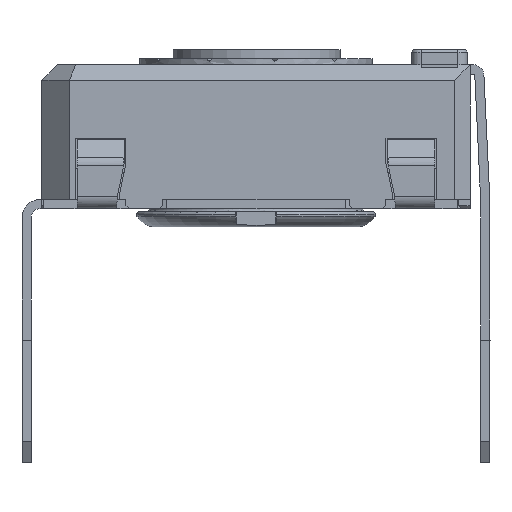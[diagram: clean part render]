
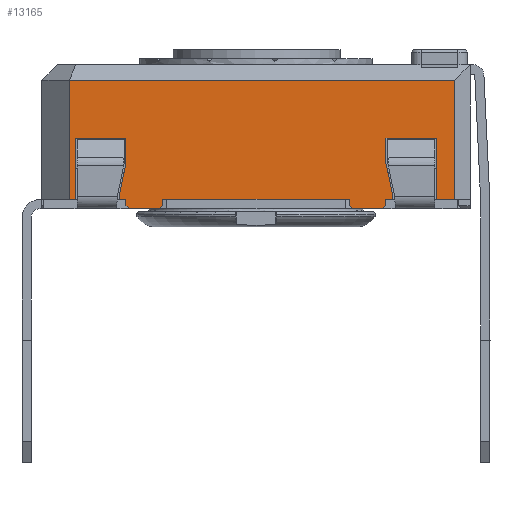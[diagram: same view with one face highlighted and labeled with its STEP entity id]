
A CAD part, left-side view. The second image highlights one B-rep face of the part: STEP entity #13165.
In plain terms, the highlighted planar face has unit normal (-1, 0, 0).
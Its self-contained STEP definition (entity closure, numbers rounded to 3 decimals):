
#1023=FACE_OUTER_BOUND('',#1709,.T.);
#1709=EDGE_LOOP('',(#10509,#10510,#10511,#10512,#10513,#10514,#10515,#10516,
#10517,#10518,#10519,#10520,#10521,#10522,#10523,#10524,#10525,#10526,#10527,
#10528,#10529,#10530,#10531,#10532,#10533,#10534,#10535,#10536));
#2725=LINE('',#20159,#4240);
#2731=LINE('',#20171,#4246);
#2734=LINE('',#20178,#4249);
#2739=LINE('',#20187,#4254);
#2759=LINE('',#20228,#4274);
#2773=LINE('',#20254,#4288);
#2777=LINE('',#20261,#4292);
#2792=LINE('',#20290,#4307);
#2795=LINE('',#20296,#4310);
#2800=LINE('',#20306,#4315);
#2803=LINE('',#20312,#4318);
#2806=LINE('',#20318,#4321);
#2824=LINE('',#20353,#4339);
#2836=LINE('',#20375,#4351);
#2839=LINE('',#20381,#4354);
#2876=LINE('',#20515,#4391);
#2884=LINE('',#20529,#4399);
#2893=LINE('',#20547,#4408);
#2898=LINE('',#20557,#4413);
#2900=LINE('',#20560,#4415);
#3025=LINE('',#20871,#4540);
#3027=LINE('',#20876,#4542);
#3030=LINE('',#20880,#4545);
#3032=LINE('',#20884,#4547);
#3035=LINE('',#20892,#4550);
#3036=LINE('',#20894,#4551);
#3037=LINE('',#20895,#4552);
#3038=LINE('',#20896,#4553);
#4240=VECTOR('',#16134,10.);
#4246=VECTOR('',#16142,10.);
#4249=VECTOR('',#16147,10.);
#4254=VECTOR('',#16154,10.);
#4274=VECTOR('',#16188,10.);
#4288=VECTOR('',#16202,10.);
#4292=VECTOR('',#16206,10.);
#4307=VECTOR('',#16233,10.);
#4310=VECTOR('',#16238,10.);
#4315=VECTOR('',#16245,10.);
#4318=VECTOR('',#16250,10.);
#4321=VECTOR('',#16255,10.);
#4339=VECTOR('',#16275,10.);
#4351=VECTOR('',#16289,10.);
#4354=VECTOR('',#16294,10.);
#4391=VECTOR('',#16375,10.);
#4399=VECTOR('',#16385,10.);
#4408=VECTOR('',#16396,10.);
#4413=VECTOR('',#16403,10.);
#4415=VECTOR('',#16407,10.);
#4540=VECTOR('',#16698,10.);
#4542=VECTOR('',#16702,10.);
#4545=VECTOR('',#16707,10.);
#4547=VECTOR('',#16713,10.);
#4550=VECTOR('',#16724,10.);
#4551=VECTOR('',#16725,10.);
#4552=VECTOR('',#16726,10.);
#4553=VECTOR('',#16727,10.);
#5658=VERTEX_POINT('',#20156);
#5659=VERTEX_POINT('',#20158);
#5663=VERTEX_POINT('',#20168);
#5665=VERTEX_POINT('',#20174);
#5667=VERTEX_POINT('',#20177);
#5670=VERTEX_POINT('',#20185);
#5695=VERTEX_POINT('',#20251);
#5696=VERTEX_POINT('',#20253);
#5698=VERTEX_POINT('',#20258);
#5699=VERTEX_POINT('',#20260);
#5706=VERTEX_POINT('',#20287);
#5708=VERTEX_POINT('',#20293);
#5712=VERTEX_POINT('',#20303);
#5714=VERTEX_POINT('',#20309);
#5717=VERTEX_POINT('',#20316);
#5733=VERTEX_POINT('',#20351);
#5742=VERTEX_POINT('',#20373);
#5744=VERTEX_POINT('',#20379);
#5771=VERTEX_POINT('',#20513);
#5776=VERTEX_POINT('',#20527);
#5783=VERTEX_POINT('',#20544);
#5787=VERTEX_POINT('',#20554);
#5861=VERTEX_POINT('',#20868);
#5862=VERTEX_POINT('',#20870);
#5863=VERTEX_POINT('',#20874);
#5864=VERTEX_POINT('',#20875);
#5865=VERTEX_POINT('',#20891);
#5866=VERTEX_POINT('',#20893);
#7194=EDGE_CURVE('',#5659,#5658,#2725,.T.);
#7200=EDGE_CURVE('',#5658,#5663,#2731,.T.);
#7203=EDGE_CURVE('',#5667,#5665,#2734,.T.);
#7208=EDGE_CURVE('',#5670,#5665,#2739,.T.);
#7228=EDGE_CURVE('',#5663,#5667,#2759,.T.);
#7242=EDGE_CURVE('',#5696,#5695,#2773,.T.);
#7246=EDGE_CURVE('',#5699,#5698,#2777,.T.);
#7262=EDGE_CURVE('',#5695,#5706,#2792,.T.);
#7265=EDGE_CURVE('',#5706,#5708,#2795,.T.);
#7270=EDGE_CURVE('',#5708,#5712,#2800,.T.);
#7273=EDGE_CURVE('',#5712,#5714,#2803,.T.);
#7276=EDGE_CURVE('',#5714,#5717,#2806,.T.);
#7294=EDGE_CURVE('',#5717,#5733,#2824,.T.);
#7306=EDGE_CURVE('',#5742,#5733,#2836,.T.);
#7309=EDGE_CURVE('',#5744,#5742,#2839,.T.);
#7358=EDGE_CURVE('',#5771,#5744,#2876,.T.);
#7366=EDGE_CURVE('',#5771,#5776,#2884,.T.);
#7375=EDGE_CURVE('',#5776,#5783,#2893,.T.);
#7380=EDGE_CURVE('',#5783,#5787,#2898,.T.);
#7382=EDGE_CURVE('',#5787,#5659,#2900,.T.);
#7523=EDGE_CURVE('',#5861,#5862,#3025,.T.);
#7525=EDGE_CURVE('',#5863,#5864,#3027,.T.);
#7528=EDGE_CURVE('',#5696,#5861,#3030,.T.);
#7530=EDGE_CURVE('',#5698,#5864,#3032,.T.);
#7533=EDGE_CURVE('',#5670,#5865,#3035,.T.);
#7534=EDGE_CURVE('',#5866,#5865,#3036,.T.);
#7535=EDGE_CURVE('',#5699,#5866,#3037,.T.);
#7536=EDGE_CURVE('',#5863,#5862,#3038,.T.);
#10509=ORIENTED_EDGE('',*,*,#7200,.T.);
#10510=ORIENTED_EDGE('',*,*,#7228,.T.);
#10511=ORIENTED_EDGE('',*,*,#7203,.T.);
#10512=ORIENTED_EDGE('',*,*,#7208,.F.);
#10513=ORIENTED_EDGE('',*,*,#7533,.T.);
#10514=ORIENTED_EDGE('',*,*,#7534,.F.);
#10515=ORIENTED_EDGE('',*,*,#7535,.F.);
#10516=ORIENTED_EDGE('',*,*,#7246,.T.);
#10517=ORIENTED_EDGE('',*,*,#7530,.T.);
#10518=ORIENTED_EDGE('',*,*,#7525,.F.);
#10519=ORIENTED_EDGE('',*,*,#7536,.T.);
#10520=ORIENTED_EDGE('',*,*,#7523,.F.);
#10521=ORIENTED_EDGE('',*,*,#7528,.F.);
#10522=ORIENTED_EDGE('',*,*,#7242,.T.);
#10523=ORIENTED_EDGE('',*,*,#7262,.T.);
#10524=ORIENTED_EDGE('',*,*,#7265,.T.);
#10525=ORIENTED_EDGE('',*,*,#7270,.T.);
#10526=ORIENTED_EDGE('',*,*,#7273,.T.);
#10527=ORIENTED_EDGE('',*,*,#7276,.T.);
#10528=ORIENTED_EDGE('',*,*,#7294,.T.);
#10529=ORIENTED_EDGE('',*,*,#7306,.F.);
#10530=ORIENTED_EDGE('',*,*,#7309,.F.);
#10531=ORIENTED_EDGE('',*,*,#7358,.F.);
#10532=ORIENTED_EDGE('',*,*,#7366,.T.);
#10533=ORIENTED_EDGE('',*,*,#7375,.T.);
#10534=ORIENTED_EDGE('',*,*,#7380,.T.);
#10535=ORIENTED_EDGE('',*,*,#7382,.T.);
#10536=ORIENTED_EDGE('',*,*,#7194,.T.);
#12334=PLANE('',#14048);
#13165=ADVANCED_FACE('',(#1023),#12334,.T.);
#14048=AXIS2_PLACEMENT_3D('',#20890,#16722,#16723);
#16134=DIRECTION('',(0.,0.208,-0.978));
#16142=DIRECTION('',(0.,0.,-1.));
#16147=DIRECTION('',(0.,0.,-1.));
#16154=DIRECTION('',(0.,0.707,0.707));
#16188=DIRECTION('',(0.,-1.,0.));
#16202=DIRECTION('',(0.,-1.,0.));
#16206=DIRECTION('',(0.,-1.,0.));
#16233=DIRECTION('',(0.,0.,1.));
#16238=DIRECTION('',(0.,0.208,0.978));
#16245=DIRECTION('',(0.,0.,1.));
#16250=DIRECTION('',(0.,-1.,0.));
#16255=DIRECTION('',(0.,0.,-1.));
#16275=DIRECTION('',(0.,-1.,0.));
#16289=DIRECTION('',(0.,0.,-1.));
#16294=DIRECTION('',(0.,-1.,0.));
#16375=DIRECTION('',(0.,0.,1.));
#16385=DIRECTION('',(0.,-1.,0.));
#16396=DIRECTION('',(0.,0.,1.));
#16403=DIRECTION('',(0.,-1.,0.));
#16407=DIRECTION('',(0.,0.,-1.));
#16698=DIRECTION('',(0.,0.707,-0.707));
#16702=DIRECTION('',(0.,0.707,0.707));
#16707=DIRECTION('',(0.,0.,-1.));
#16713=DIRECTION('',(0.,0.,-1.));
#16722=DIRECTION('center_axis',(-1.,0.,0.));
#16723=DIRECTION('ref_axis',(0.,0.,1.));
#16724=DIRECTION('',(0.,-1.,0.));
#16725=DIRECTION('',(0.,0.707,-0.707));
#16726=DIRECTION('',(0.,0.,-1.));
#16727=DIRECTION('',(0.,-1.,0.));
#20156=CARTESIAN_POINT('',(-14.467,1.552,0.235));
#20158=CARTESIAN_POINT('',(-14.467,1.352,1.176));
#20159=CARTESIAN_POINT('',(-14.467,1.228,1.757));
#20168=CARTESIAN_POINT('',(-14.467,1.552,0.));
#20171=CARTESIAN_POINT('',(-14.467,1.552,0.));
#20174=CARTESIAN_POINT('',(-14.467,1.352,-0.2));
#20177=CARTESIAN_POINT('',(-14.467,1.352,0.));
#20178=CARTESIAN_POINT('',(-14.467,1.352,0.));
#20185=CARTESIAN_POINT('',(-14.467,1.252,-0.3));
#20187=CARTESIAN_POINT('',(-14.467,-1.436,-2.988));
#20228=CARTESIAN_POINT('',(-14.467,4.102,0.));
#20251=CARTESIAN_POINT('',(-14.467,-7.348,0.));
#20253=CARTESIAN_POINT('',(-14.467,-7.148,0.));
#20254=CARTESIAN_POINT('',(-14.467,4.102,0.));
#20258=CARTESIAN_POINT('',(-14.467,-5.948,0.));
#20260=CARTESIAN_POINT('',(-14.467,0.152,0.));
#20261=CARTESIAN_POINT('',(-14.467,4.102,0.));
#20287=CARTESIAN_POINT('',(-14.467,-7.348,0.235));
#20290=CARTESIAN_POINT('',(-14.467,-7.348,0.118));
#20293=CARTESIAN_POINT('',(-14.467,-7.148,1.176));
#20296=CARTESIAN_POINT('',(-14.467,-7.453,-0.254));
#20303=CARTESIAN_POINT('',(-14.467,-7.148,2.));
#20306=CARTESIAN_POINT('',(-14.467,-7.148,0.588));
#20309=CARTESIAN_POINT('',(-14.467,-8.798,2.));
#20312=CARTESIAN_POINT('',(-14.467,-8.523,2.));
#20316=CARTESIAN_POINT('',(-14.467,-8.798,0.));
#20318=CARTESIAN_POINT('',(-14.467,-8.798,0.));
#20351=CARTESIAN_POINT('',(-14.467,-9.398,0.));
#20353=CARTESIAN_POINT('',(-14.467,-9.595,0.));
#20373=CARTESIAN_POINT('',(-14.467,-9.398,3.9));
#20375=CARTESIAN_POINT('',(-14.467,-9.398,0.));
#20379=CARTESIAN_POINT('',(-14.467,3.202,3.9));
#20381=CARTESIAN_POINT('',(-14.467,-6.398,3.9));
#20513=CARTESIAN_POINT('',(-14.467,3.202,0.));
#20515=CARTESIAN_POINT('',(-14.467,3.202,0.));
#20527=CARTESIAN_POINT('',(-14.467,3.002,0.));
#20529=CARTESIAN_POINT('',(-14.467,-2.985,0.));
#20544=CARTESIAN_POINT('',(-14.467,3.002,2.));
#20547=CARTESIAN_POINT('',(-14.467,3.002,0.));
#20554=CARTESIAN_POINT('',(-14.467,1.352,2.));
#20557=CARTESIAN_POINT('',(-14.467,-3.448,2.));
#20560=CARTESIAN_POINT('',(-14.467,1.352,1.));
#20868=CARTESIAN_POINT('',(-14.467,-7.148,-0.2));
#20870=CARTESIAN_POINT('',(-14.467,-7.048,-0.3));
#20871=CARTESIAN_POINT('',(-14.467,-7.861,0.513));
#20874=CARTESIAN_POINT('',(-14.467,-6.048,-0.3));
#20875=CARTESIAN_POINT('',(-14.467,-5.948,-0.2));
#20876=CARTESIAN_POINT('',(-14.467,-6.911,-1.163));
#20880=CARTESIAN_POINT('',(-14.467,-7.148,0.));
#20884=CARTESIAN_POINT('',(-14.467,-5.948,0.));
#20890=CARTESIAN_POINT('Origin',(-14.467,-9.898,0.));
#20891=CARTESIAN_POINT('',(-14.467,0.252,-0.3));
#20892=CARTESIAN_POINT('',(-14.467,0.152,-0.3));
#20893=CARTESIAN_POINT('',(-14.467,0.152,-0.2));
#20894=CARTESIAN_POINT('',(-14.467,-2.386,2.338));
#20895=CARTESIAN_POINT('',(-14.467,0.152,0.));
#20896=CARTESIAN_POINT('',(-14.467,-7.148,-0.3));
